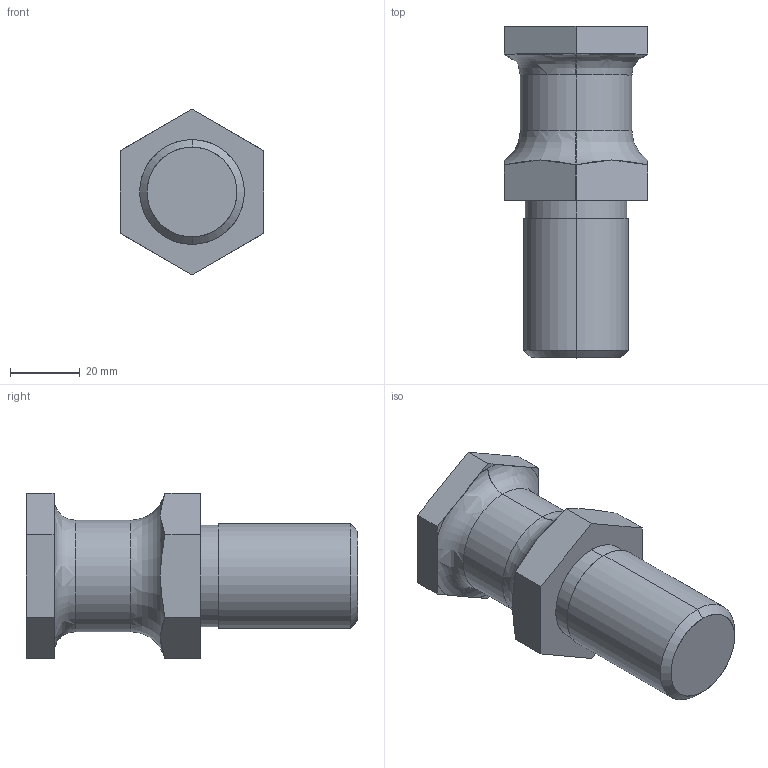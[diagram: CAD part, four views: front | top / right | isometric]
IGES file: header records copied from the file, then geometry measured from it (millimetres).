
Start section: START RECORD GO HERE.
Global section: file name: 395P-02-032-030.igs; native system: DASSAULT SYSTEMES CATIA V5 R20 - www.3ds.com; preprocessor: CATIA Version 5 Release 20 ; author: Utente; organization: NB04-ASUS; date: 20200409.203852; units: millimetre
Bounding box: 41 x 95 x 47.34 mm (x, y, z)
Surface area: 13688.4 mm2 (no closed solid volume)
Topology: 0 solids, 0 shells, 34 faces, 171 edges, 171 vertices
Faces by surface type: extrusion 22, revolution 12
